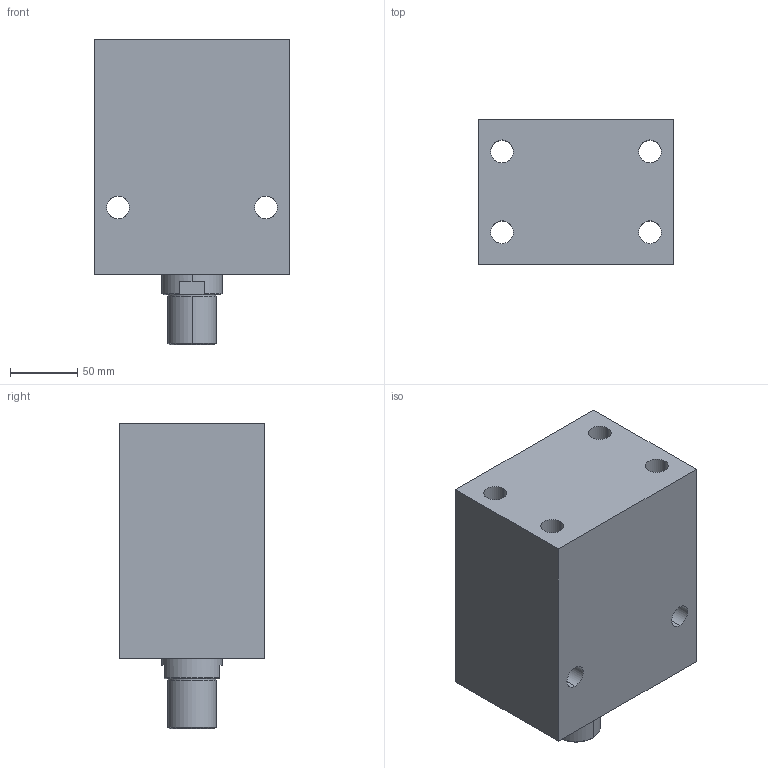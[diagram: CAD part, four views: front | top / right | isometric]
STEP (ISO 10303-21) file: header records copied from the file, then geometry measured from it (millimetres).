
FILE_DESCRIPTION (( 'STEP AP203' ), '1' );
FILE_NAME ('Block cylinder B01C-710M.STEP', '2022-07-09T18:16:10', ( '' ), ( '' ), 'SwSTEP 2.0', 'SolidWorks 2017', '' );
FILE_SCHEMA (( 'CONFIG_CONTROL_DESIGN' ));
Length unit declared in the file: millimetre
Products named in the file (3): Body_ 710M_50ST; Piston _710M; Block cylinder B01C-710M
Assembly tree (2 placements, depth 2):
  Block cylinder B01C-710M
    Body_ 710M_50ST
    Piston _710M
Bounding box: 145 x 108 x 227 mm (x, y, z)
Volume: 2831182.7 mm3; surface area: 203131.9 mm2
Topology: 2 solids, 2 shells, 348 faces, 948 edges, 620 vertices
Faces by surface type: plane 151, bspline 143, cylinder 46, cone 8
Entity records: 16999 total; most frequent: CARTESIAN_POINT 8924, ORIENTED_EDGE 1888, DIRECTION 1110, EDGE_CURVE 944, VERTEX_POINT 620, VECTOR 554, LINE 554, EDGE_LOOP 388
